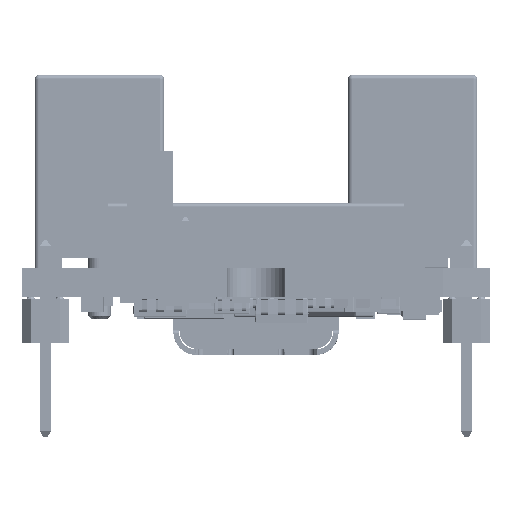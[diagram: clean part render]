
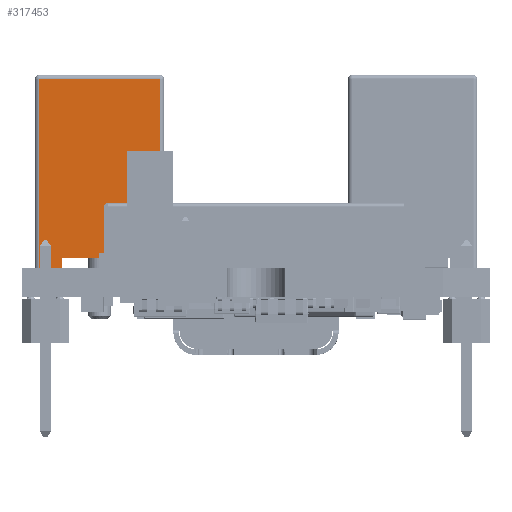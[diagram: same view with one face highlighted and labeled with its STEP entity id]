
A CAD part, front view. The second image highlights one B-rep face of the part: STEP entity #317453.
In plain terms, the highlighted planar face has unit normal (0, -1, 0) as drawn and (0, 0, -1) by its records, which use the part's own axes.
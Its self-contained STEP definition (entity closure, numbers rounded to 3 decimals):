
#13257 = VERTEX_POINT ( 'NONE', #188642 ) ;
#16176 = DIRECTION ( 'NONE',  ( 0., -1., 0. ) ) ;
#22394 = EDGE_CURVE ( 'NONE', #346516, #453544, #306913, .T. ) ;
#26223 = CARTESIAN_POINT ( 'NONE',  ( 3.277, 10.465, -3.505 ) ) ;
#47184 = ORIENTED_EDGE ( 'NONE', *, *, #22394, .T. ) ;
#49739 = DIRECTION ( 'NONE',  ( -1., 0., 0. ) ) ;
#50708 = VECTOR ( 'NONE', #161289, 1000. ) ;
#54561 = CARTESIAN_POINT ( 'NONE',  ( -3.505, 10.236, -3.505 ) ) ;
#56442 = DIRECTION ( 'NONE',  ( 0., -1., 0. ) ) ;
#57089 = ORIENTED_EDGE ( 'NONE', *, *, #370602, .T. ) ;
#70330 = ORIENTED_EDGE ( 'NONE', *, *, #236808, .T. ) ;
#79621 = VECTOR ( 'NONE', #111743, 1000. ) ;
#111743 = DIRECTION ( 'NONE',  ( -1., 0., 0. ) ) ;
#116121 = FACE_OUTER_BOUND ( 'NONE', #402365, .T. ) ;
#119352 = LINE ( 'NONE', #263158, #407745 ) ;
#120706 = PLANE ( 'NONE',  #171409 ) ;
#135745 = ORIENTED_EDGE ( 'NONE', *, *, #254601, .F. ) ;
#146659 = ORIENTED_EDGE ( 'NONE', *, *, #181364, .F. ) ;
#151024 = LINE ( 'NONE', #213789, #297871 ) ;
#153228 = DIRECTION ( 'NONE',  ( 0., 0., 1. ) ) ;
#158446 = CARTESIAN_POINT ( 'NONE',  ( 3.277, 0., -3.505 ) ) ;
#161289 = DIRECTION ( 'NONE',  ( 1., 0., 0. ) ) ;
#169462 = VERTEX_POINT ( 'NONE', #239858 ) ;
#171409 = AXIS2_PLACEMENT_3D ( 'NONE', #327200, #153228, #396898 ) ;
#181364 = EDGE_CURVE ( 'NONE', #337746, #266481, #193902, .T. ) ;
#188642 = CARTESIAN_POINT ( 'NONE',  ( 2.032, 0., -3.505 ) ) ;
#193902 = LINE ( 'NONE', #367930, #324150 ) ;
#195468 = VECTOR ( 'NONE', #348915, 1000. ) ;
#196050 = LINE ( 'NONE', #54561, #50708 ) ;
#197050 = CARTESIAN_POINT ( 'NONE',  ( -3.277, 0., -3.505 ) ) ;
#211606 = CARTESIAN_POINT ( 'NONE',  ( -2.032, 0., -3.505 ) ) ;
#212238 = VERTEX_POINT ( 'NONE', #211606 ) ;
#213789 = CARTESIAN_POINT ( 'NONE',  ( -3.277, 10.465, -3.505 ) ) ;
#224928 = LINE ( 'NONE', #259737, #241036 ) ;
#236808 = EDGE_CURVE ( 'NONE', #311728, #169462, #151024, .T. ) ;
#239858 = CARTESIAN_POINT ( 'NONE',  ( -3.277, 10.236, -3.505 ) ) ;
#241036 = VECTOR ( 'NONE', #16176, 1000. ) ;
#249800 = EDGE_CURVE ( 'NONE', #337746, #212238, #251390, .T. ) ;
#251390 = LINE ( 'NONE', #453416, #195468 ) ;
#254601 = EDGE_CURVE ( 'NONE', #266481, #13257, #224928, .T. ) ;
#259737 = CARTESIAN_POINT ( 'NONE',  ( 2.032, 0.508, -3.505 ) ) ;
#263158 = CARTESIAN_POINT ( 'NONE',  ( -3.505, 0., -3.505 ) ) ;
#266481 = VERTEX_POINT ( 'NONE', #316458 ) ;
#292843 = EDGE_CURVE ( 'NONE', #169462, #346516, #196050, .T. ) ;
#297871 = VECTOR ( 'NONE', #399254, 1000. ) ;
#303268 = ORIENTED_EDGE ( 'NONE', *, *, #249800, .T. ) ;
#306913 = LINE ( 'NONE', #26223, #341484 ) ;
#309007 = CARTESIAN_POINT ( 'NONE',  ( -2.032, 0.508, -3.505 ) ) ;
#311728 = VERTEX_POINT ( 'NONE', #197050 ) ;
#316458 = CARTESIAN_POINT ( 'NONE',  ( 2.032, 0.508, -3.505 ) ) ;
#317121 = ORIENTED_EDGE ( 'NONE', *, *, #292843, .T. ) ;
#317453 = ADVANCED_FACE ( 'NONE', ( #116121 ), #120706, .F. ) ;
#324150 = VECTOR ( 'NONE', #439859, 1000. ) ;
#327200 = CARTESIAN_POINT ( 'NONE',  ( -3.505, 10.465, -3.505 ) ) ;
#337746 = VERTEX_POINT ( 'NONE', #309007 ) ;
#341484 = VECTOR ( 'NONE', #56442, 1000. ) ;
#346516 = VERTEX_POINT ( 'NONE', #353568 ) ;
#348915 = DIRECTION ( 'NONE',  ( 0., -1., 0. ) ) ;
#353568 = CARTESIAN_POINT ( 'NONE',  ( 3.277, 10.236, -3.505 ) ) ;
#367930 = CARTESIAN_POINT ( 'NONE',  ( 2.032, 0.508, -3.505 ) ) ;
#370602 = EDGE_CURVE ( 'NONE', #453544, #13257, #119352, .T. ) ;
#390180 = CARTESIAN_POINT ( 'NONE',  ( -3.505, 0., -3.505 ) ) ;
#396898 = DIRECTION ( 'NONE',  ( 1., 0., 0. ) ) ;
#399254 = DIRECTION ( 'NONE',  ( 0., 1., 0. ) ) ;
#402365 = EDGE_LOOP ( 'NONE', ( #448229, #70330, #317121, #47184, #57089, #135745, #146659, #303268 ) ) ;
#407745 = VECTOR ( 'NONE', #49739, 1000. ) ;
#429553 = LINE ( 'NONE', #390180, #79621 ) ;
#439859 = DIRECTION ( 'NONE',  ( 1., 0., 0. ) ) ;
#448229 = ORIENTED_EDGE ( 'NONE', *, *, #449075, .T. ) ;
#449075 = EDGE_CURVE ( 'NONE', #212238, #311728, #429553, .T. ) ;
#453416 = CARTESIAN_POINT ( 'NONE',  ( -2.032, 0.508, -3.505 ) ) ;
#453544 = VERTEX_POINT ( 'NONE', #158446 ) ;
